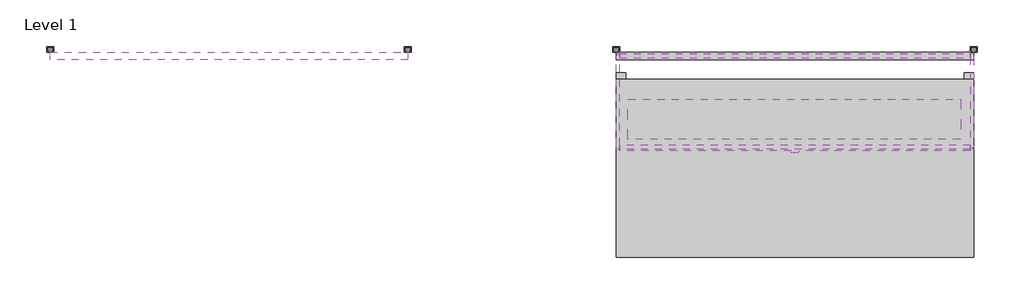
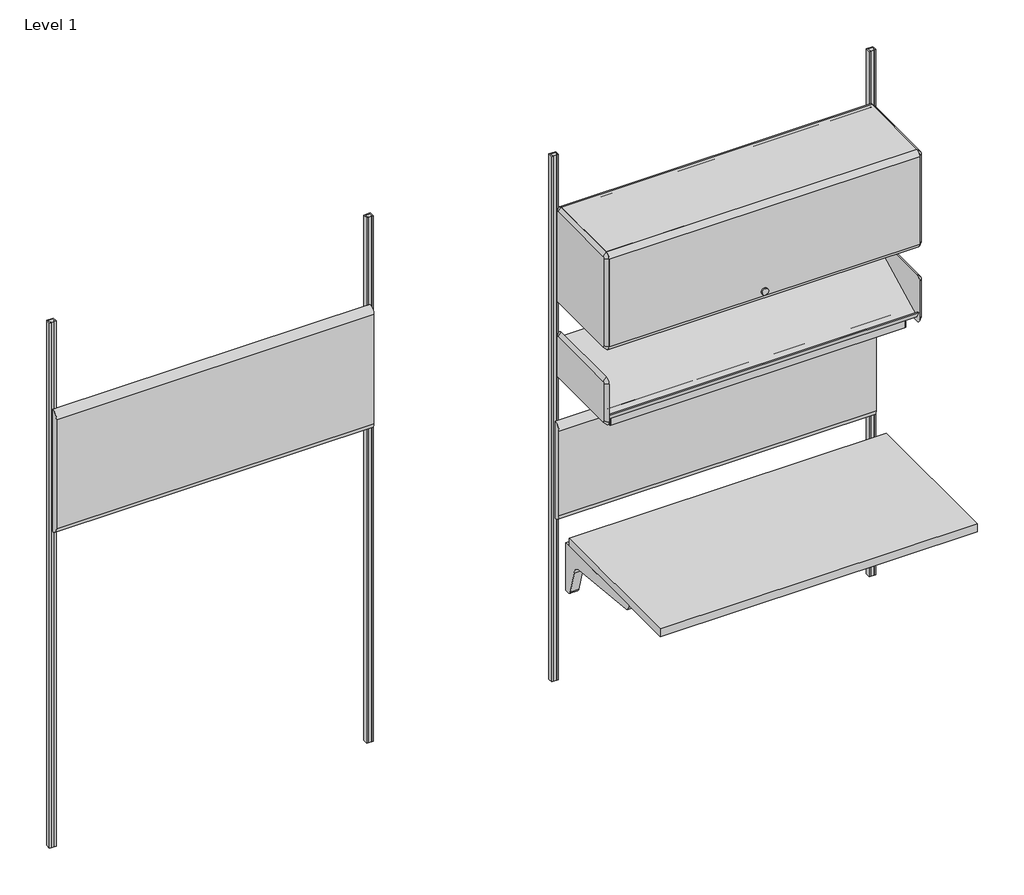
# One storey, incomplete: 10 furniture elements, 1 light fixture.
"""IFC4 building model written with IfcOpenShell, lengths in millimetres."""

from ifc_helpers import new_model, si_unit, origin, place, context, project, spatial, transform, mapped, element, save
from components import furniture_793f8ccc, furniture_083a197f, furniture_243052f0, furniture_439dfb7c, furniture_ebb16344, furniture_8d228605, furniture_ea425779, light_fixture_48w_for_action_office_09e55f13

model = new_model("IFC4")

# Units and contexts
model_context = context("Model", 3, world=origin())
ifc_project = project(units=[si_unit("LENGTHUNIT", "METRE", prefix="MILLI")], contexts=[model_context])

# Site, building, storey
site = spatial("IfcSite", under=ifc_project)
building = spatial("IfcBuilding", under=site)
storey = spatial("IfcBuildingStorey", under=building, Name="Level 1", Elevation=0.0)

# Furniture
placement = place(None, origin())
furniture_shape = furniture_793f8ccc(model_context)
element("IfcFurniture", 1, ObjectType="HermanMiller_ActionOffice_A3410_B-StyleTackboard : 16\"H x 48\"W", at=placement, inside=storey, context=model_context, shape_type="MappedRepresentation", body=[
    mapped(furniture_shape, transform((2540.0, -31.75, 0.0), x_axis=(1.0, 0.0, 0.0), y_axis=(0.0, 1.0, 0.0), z_axis=(0.0, 0.0, 1.0))),
])
furniture_2_shape = furniture_083a197f(model_context)
element("IfcFurniture", 2, ObjectType="HermanMiller_ActionOffice_A2310_Sq-EdgeRectangularWorkSurface : 24\"D x 48\"W", at=placement, inside=storey, context=model_context, shape_type="MappedRepresentation", body=[
    mapped(furniture_2_shape, transform((2540.0, -403.4356391, 0.0), x_axis=(1.0, 0.0, 0.0), y_axis=(0.0, 1.0, 0.0), z_axis=(0.0, 0.0, 1.0))),
])
furniture_3_shape = furniture_243052f0(model_context)
element("IfcFurniture", 3, ObjectType="HermanMiller_ActionOffice_A3410_B-StyleTackboard : 20\"H x 48\"W", at=placement, inside=storey, context=model_context, shape_type="MappedRepresentation", body=[
    mapped(furniture_3_shape, transform((609.6, -31.75, 0.0), x_axis=(1.0, 0.0, 0.0), y_axis=(0.0, 1.0, 0.0), z_axis=(0.0, 0.0, 1.0))),
])
furniture_4_shape = furniture_439dfb7c(model_context)
element("IfcFurniture", 4, ObjectType="HermanMiller_ActionOffice_A3220_B-StyleStorageDisplay : Display 13\"D x 48\"W", at=placement, inside=storey, context=model_context, shape_type="MappedRepresentation", body=[
    mapped(furniture_4_shape, transform((2663.9420045, -200.025, 0.0), x_axis=(1.0, 0.0, 0.0), y_axis=(0.0, 1.0, 0.0), z_axis=(0.0, 0.0, 1.0))),
])
furniture_5_shape = furniture_ebb16344(model_context)
element("IfcFurniture", 5, ObjectType="HermanMiller_ActionOffice_B-StyleFlipperDoor : Paint 15-1/2H x 13D x 48W", at=placement, inside=storey, context=model_context, shape_type="MappedRepresentation", body=[
    mapped(furniture_5_shape, transform((2540.0, -200.025, 457.2), x_axis=(1.0, 0.0, 0.0), y_axis=(0.0, 1.0, 0.0), z_axis=(0.0, 0.0, 1.0))),
])
furniture_6_shape = furniture_8d228605(model_context)
element("IfcFurniture", 6, ObjectType="HermanMiller_CoStruc_B-StyleShelf : 15-1/2H x 13D x 48W", at=placement, inside=storey, context=model_context, shape_type="MappedRepresentation", body=[
    mapped(furniture_6_shape, transform((2663.9420045, -200.025, 457.2), x_axis=(1.0, 0.0, 0.0), y_axis=(0.0, 1.0, 0.0), z_axis=(0.0, 0.0, 1.0))),
])
furniture_7_shape = furniture_ea425779(model_context)
element("IfcFurniture", 7, ObjectType="HermanMiller_ActionOffice_AO213_WallStrip : 84\"H", at=placement, inside=storey, context=model_context, shape_type="MappedRepresentation", body=[
    mapped(furniture_7_shape, transform((1219.2, 0.0, 0.0), x_axis=(1.0, 0.0, 0.0), y_axis=(0.0, 1.0, 0.0), z_axis=(0.0, 0.0, 1.0))),
])
element("IfcFurniture", 8, ObjectType="HermanMiller_ActionOffice_AO213_WallStrip : 84\"H", at=placement, inside=storey, context=model_context, shape_type="MappedRepresentation", body=[
    mapped(furniture_7_shape, transform((0.0, 0.0, 0.0), x_axis=(1.0, 0.0, 0.0), y_axis=(0.0, 1.0, 0.0), z_axis=(0.0, 0.0, 1.0))),
])
element("IfcFurniture", 9, ObjectType="HermanMiller_ActionOffice_AO213_WallStrip : 84\"H", at=placement, inside=storey, context=model_context, shape_type="MappedRepresentation", body=[
    mapped(furniture_7_shape, transform((3149.6, 0.0, 0.0), x_axis=(1.0, 0.0, 0.0), y_axis=(0.0, 1.0, 0.0), z_axis=(0.0, 0.0, 1.0))),
])
element("IfcFurniture", 10, ObjectType="HermanMiller_ActionOffice_AO213_WallStrip : 84\"H", at=placement, inside=storey, context=model_context, shape_type="MappedRepresentation", body=[
    mapped(furniture_7_shape, transform((1930.4, 0.0, 0.0), x_axis=(1.0, 0.0, 0.0), y_axis=(0.0, 1.0, 0.0), z_axis=(0.0, 0.0, 1.0))),
])

# Light fixture
light_fixture_48w_for_action_office_shape = light_fixture_48w_for_action_office_09e55f13(model_context)
element("IfcLightFixture", 11, ObjectType="HermanMiller_SupplementalProducts_G6170_EUnderShelfLEDTaskLight : 48W for Action Office", at=placement, inside=storey, context=model_context, shape_type="MappedRepresentation", body=[
    mapped(light_fixture_48w_for_action_office_shape, transform((2537.32538, -248.23928, 124.8679666), x_axis=(1.0, 0.0, 0.0), y_axis=(0.0, 1.0, 0.0), z_axis=(0.0, 0.0, 1.0))),
])

save(model, "model.ifc")
